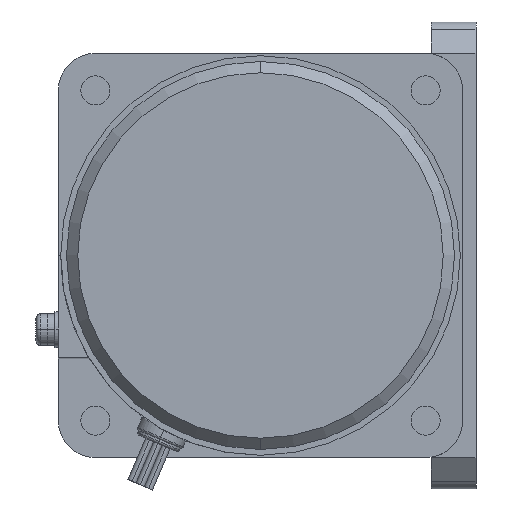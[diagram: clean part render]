
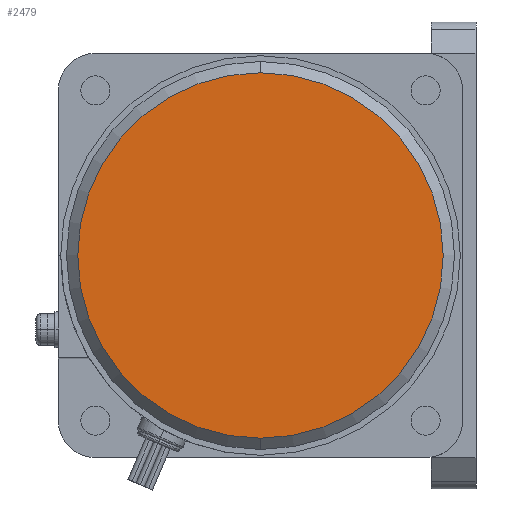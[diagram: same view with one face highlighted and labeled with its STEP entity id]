
A CAD part, left-side view. The second image highlights one B-rep face of the part: STEP entity #2479.
In plain terms, the highlighted planar face has unit normal (-1, 0, 0).
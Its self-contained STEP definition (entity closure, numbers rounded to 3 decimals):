
#2459=CARTESIAN_POINT('POINT200278',(-173.,48.,28.7));
#2460=VERTEX_POINT('VERTEX200278',#2459);
#2461=CARTESIAN_POINT('POINT200279',(-173.,48.,-52.7));
#2462=VERTEX_POINT('VERTEX200279',#2461);
#2463=CARTESIAN_POINT('POS338198',(-173.,48.,-12.));
#2464=DIRECTION('DIR509965',(1.,0.,0.));
#2465=DIRECTION('DIR509966',(0.,0.,1.));
#2466=AXIS2_PLACEMENT_3D('AXIS171768',#2463,#2464,#2465);
#2467=CIRCLE('ELLIPSE80402',#2466,40.7);
#2468=EDGE_CURVE('EDGE305832',#2460,#2462,#2467,.T.);
#2469=ORIENTED_EDGE('COEDGE611645',*,*,#2468,.F.);
#2470=EDGE_CURVE('EDGE305833',#2462,#2460,#2467,.T.);
#2471=ORIENTED_EDGE('COEDGE611646',*,*,#2470,.F.);
#2472=EDGE_LOOP('NONE',(#2469,#2471));
#2473=FACE_BOUND('LOOP1',#2472,.T.);
#2474=CARTESIAN_POINT('POS338199',(-173.,48.,
   8.35));
#2475=DIRECTION('DIR509967',(-1.,0.,0.));
#2476=DIRECTION('DIR509968',(0.,1.,0.));
#2477=AXIS2_PLACEMENT_3D('AXIS171769',#2474,#2475,#2476);
#2478=PLANE('PLANE54628',#2477);
#2479=ADVANCED_FACE('FACE125320',(#2473),#2478,.T.);
